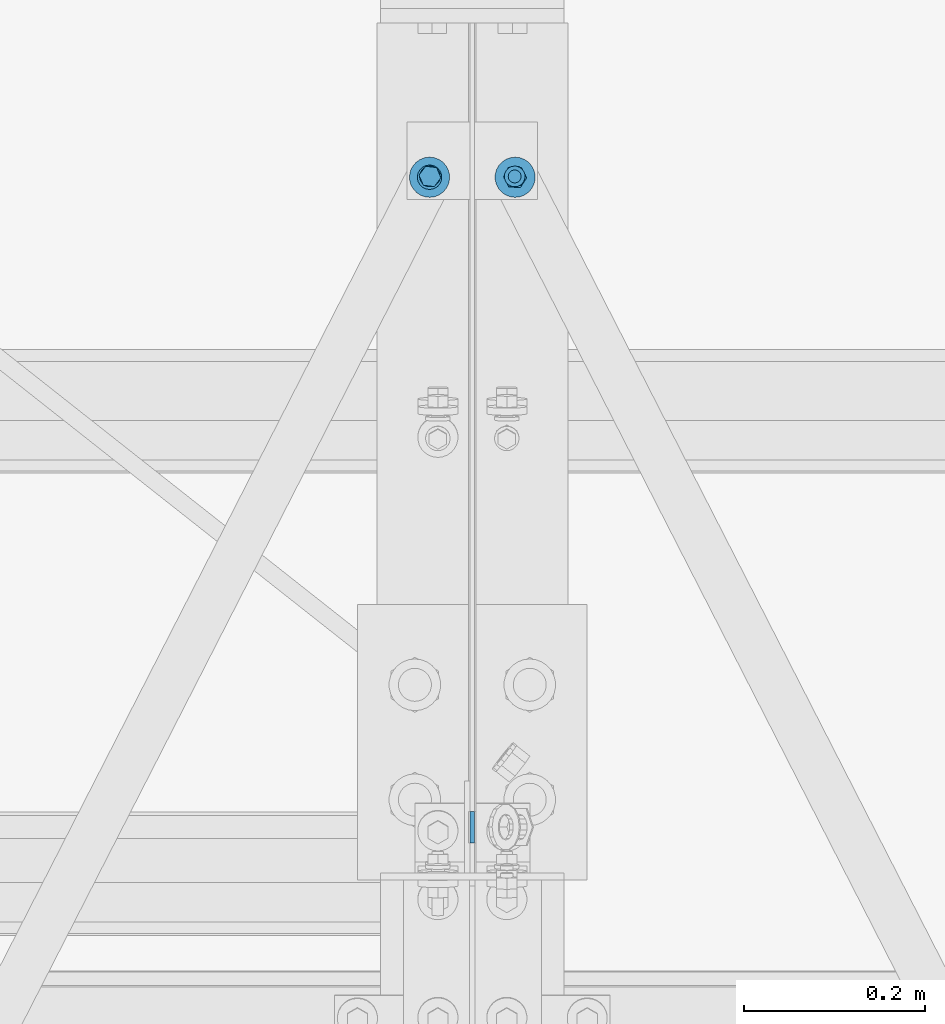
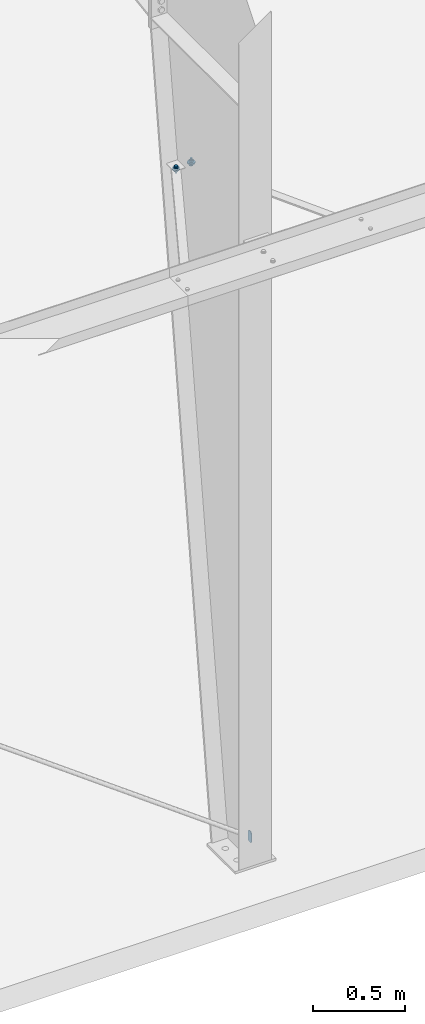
# One storey, part 166 of 185: 5 mechanical fasteners, 3 elements without a shape of their own.
"""IFC2X3 building model written with IfcOpenShell, lengths in millimetres."""

from ifc_helpers import new_model, si_unit, frame, frame_2d, origin_with_axes, origin_2d_with_axis, place, context, subcontext, project, spatial, polyline, circle_curve, parameter, trimmed, segment, composite_curve, circle, outline, extrude, source, transform, mapped, material, type_object, element, aggregate, save


model = new_model("IFC2X3")

# Units and contexts
model_context = context("Model", 3, precision=1e-05, world=origin_with_axes())
body_context = subcontext(model_context, "Body", "Model", "MODEL_VIEW")
ifc_project = project(units=[si_unit("LENGTHUNIT", "METRE", prefix="MILLI"), si_unit("AREAUNIT", "SQUARE_METRE"), si_unit("VOLUMEUNIT", "CUBIC_METRE"), si_unit("MASSUNIT", "GRAM", prefix="KILO"), si_unit("TIMEUNIT", "SECOND"), si_unit("PLANEANGLEUNIT", "RADIAN"), si_unit("SOLIDANGLEUNIT", "STERADIAN"), si_unit("THERMODYNAMICTEMPERATUREUNIT", "DEGREE_CELSIUS"), si_unit("LUMINOUSINTENSITYUNIT", "LUMEN")], contexts=[model_context])

# Site, building, storey
site_placement = place(None, origin_with_axes())
site = spatial("IfcSite", under=ifc_project, at=site_placement, Name="Undefined", CompositionType="ELEMENT")
building_placement = place(site_placement, origin_with_axes())
building = spatial("IfcBuilding", under=site, at=building_placement, Name="Undefined", CompositionType="ELEMENT")
storey_placement = place(building_placement, origin_with_axes())
storey = spatial("IfcBuildingStorey", under=building, at=storey_placement, Name="Undefined", CompositionType="ELEMENT", Elevation=0.0)

# Assembly, mechanical fastener
assembly_1_placement = place(storey_placement, origin_with_axes())
assembly_1 = element("IfcElementAssembly", 1, at=assembly_1_placement, inside=storey, Name="Steel Assembly", AssemblyPlace="NOTDEFINED", PredefinedType="RIGID_FRAME")
ifc_material_1 = material(Name="Undefined")
discrete_accessory_type = type_object("IfcDiscreteAccessoryType", Name="Bolt assembly")
shared_shape_1 = source(origin_with_axes(), body_context, "Body", "SweptSolid", [
    extrude(circle(Radius=7.14374971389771, at=origin_2d_with_axis()), frame((0.0, -1.59000001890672, 0.0), z_axis=(0.0, 1.0, 0.0), x_axis=(1.0, 0.0, 0.0)), (0.0, 0.0, 1.0), 1.7),
    extrude(outline(polyline([(10.9985221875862, 0.0), (5.4992610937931, 9.52499961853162), (-5.4992610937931, 9.52499961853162), (-10.9985221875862, 0.0), (-5.4992610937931, -9.52499961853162), (5.4992610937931, -9.52499961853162), (10.9985221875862, 0.0)])), frame((0.0, -15.0837496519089, 0.0), z_axis=(0.0, 1.0, 0.0), x_axis=(1.0, 0.0, 0.0)), (0.0, 0.0, 1.0), 9.5),
    extrude(circle(Radius=6.34999990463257, at=origin_2d_with_axis()), frame((0.0, -5.5587500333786, 0.0), z_axis=(0.0, 1.0, 0.0), x_axis=(1.0, 0.0, 0.0)), (0.0, 0.0, 1.0), 38.1),
    extrude(circle(Radius=13.4937496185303, at=origin_2d_with_axis()), frame((0.0, -5.5587500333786, 0.0), z_axis=(0.0, 1.0, 0.0), x_axis=(1.0, 0.0, 0.0)), (0.0, 0.0, 1.0), 4.0),
    extrude(circle(Radius=22.2250003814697, at=origin_2d_with_axis()), frame((0.0, 0.0, 0.0), z_axis=(0.0, 1.0, 0.0), x_axis=(1.0, 0.0, 0.0)), (0.0, 0.0, 1.0), 7.9),
    extrude(outline(polyline([(12.8316099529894, 0.0), (6.4158049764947, 11.1125001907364), (-6.4158049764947, 11.1125001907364), (-12.8316099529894, 0.0), (-6.4158049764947, -11.1125001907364), (6.4158049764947, -11.1125001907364), (12.8316099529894, 0.0)])), frame((0.0, 7.93750000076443, 0.0), z_axis=(0.0, 1.0, 0.0), x_axis=(1.0, 0.0, 0.0)), (0.0, 0.0, 1.0), 12.3),
])
mechanical_fastener_1_placement = place(assembly_1_placement, frame((37766.2866216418, 1081.76889073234, 4165.1649751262), z_axis=(-0.890301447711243, -0.455371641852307, 0.0), x_axis=(0.455371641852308, -0.890301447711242, 0.0)))
mechanical_fastener_1 = element("IfcMechanicalFastener", 2, at=mechanical_fastener_1_placement, type_object=discrete_accessory_type, material=ifc_material_1, Name="Bolt assembly", NominalDiameter=12.6999998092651, NominalLength=38.0999984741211, context=body_context, shape_type="MappedRepresentation", body=[
    mapped(shared_shape_1, transform((0.0, 0.0, 0.0))),
])
aggregate(assembly_1, [mechanical_fastener_1])

assembly_2_placement = place(storey_placement, origin_with_axes())
assembly_2 = element("IfcElementAssembly", 3, at=assembly_2_placement, inside=storey, Name="Steel Assembly", AssemblyPlace="NOTDEFINED", PredefinedType="RIGID_FRAME")
shared_shape_2 = source(origin_with_axes(), body_context, "Body", "SweptSolid", [
    extrude(circle(Radius=7.14374971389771, at=origin_2d_with_axis()), frame((0.0, 0.0, 0.0), z_axis=(0.0, 1.0, 0.0), x_axis=(1.0, 0.0, 0.0)), (0.0, 0.0, 1.0), 1.7),
    extrude(outline(polyline([(10.9985221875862, 0.0), (5.4992610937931, 9.52499961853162), (-5.4992610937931, 9.52499961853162), (-10.9985221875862, 0.0), (-5.4992610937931, -9.52499961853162), (5.4992610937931, -9.52499961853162), (10.9985221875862, 0.0)])), frame((0.0, -13.4937496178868, 0.0), z_axis=(0.0, 1.0, 0.0), x_axis=(1.0, 0.0, 0.0)), (0.0, 0.0, 1.0), 9.5),
    extrude(circle(Radius=6.34999990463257, at=origin_2d_with_axis()), frame((0.0, -3.96874999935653, 0.0), z_axis=(0.0, 1.0, 0.0), x_axis=(1.0, 0.0, 0.0)), (0.0, 0.0, 1.0), 38.1),
    extrude(circle(Radius=13.4937496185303, at=origin_2d_with_axis()), frame((0.0, -3.96874999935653, 0.0), z_axis=(0.0, 1.0, 0.0), x_axis=(1.0, 0.0, 0.0)), (0.0, 0.0, 1.0), 4.0),
    extrude(circle(Radius=22.2250003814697, at=origin_2d_with_axis()), frame((0.0, 1.5900000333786, 0.0), z_axis=(0.0, 1.0, 0.0), x_axis=(1.0, 0.0, 0.0)), (0.0, 0.0, 1.0), 7.9),
    extrude(outline(polyline([(12.8316099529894, 0.0), (6.4158049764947, 11.1125001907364), (-6.4158049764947, 11.1125001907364), (-12.8316099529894, 0.0), (-6.4158049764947, -11.1125001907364), (6.4158049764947, -11.1125001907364), (12.8316099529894, 0.0)])), frame((0.0, 9.5275000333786, 0.0), z_axis=(0.0, 1.0, 0.0), x_axis=(1.0, 0.0, 0.0)), (0.0, 0.0, 1.0), 12.3),
])
mechanical_fastener_2_placement = place(assembly_2_placement, frame((37671.7133783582, 1081.76889073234, 4165.1649751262), z_axis=(0.890301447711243, -0.455371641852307, 0.0), x_axis=(-0.455371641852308, -0.890301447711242, 0.0)))
mechanical_fastener_2 = element("IfcMechanicalFastener", 4, at=mechanical_fastener_2_placement, type_object=discrete_accessory_type, material=ifc_material_1, Name="Bolt assembly", NominalDiameter=12.6999998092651, NominalLength=38.0999984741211, context=body_context, shape_type="MappedRepresentation", body=[
    mapped(shared_shape_2, transform((0.0, 0.0, 0.0))),
])
aggregate(assembly_2, [mechanical_fastener_2])

# Assembly, mechanical fasteners
assembly_3_placement = place(storey_placement, origin_with_axes())
assembly_3 = element("IfcElementAssembly", 5, at=assembly_3_placement, inside=storey, Name="Steel Assembly", AssemblyPlace="NOTDEFINED", PredefinedType="RIGID_FRAME")
ifc_material_2 = material(Name="7990")
shared_shape_3 = source(origin_with_axes(), body_context, "Body", "SweptSolid", [
    extrude(circle(Radius=7.14374971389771, at=origin_2d_with_axis()), frame((0.0, -3.41600000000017, 0.0), z_axis=(0.0, 1.0, 0.0), x_axis=(1.0, 0.0, 0.0)), (0.0, 0.0, 1.0), 3.5),
    extrude(circle(Radius=11.4299998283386, at=origin_2d_with_axis()), frame((0.0, 0.0, 0.0), z_axis=(0.0, 1.0, 0.0), x_axis=(1.0, 0.0, 0.0)), (0.0, 0.0, 1.0), 4.2),
    extrude(outline(polyline([(12.171698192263, 0.0), (6.08584909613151, 10.5409998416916), (-6.08584909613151, 10.5409998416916), (-12.171698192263, 0.0), (-6.08584909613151, -10.5409998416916), (6.08584909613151, -10.5409998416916), (12.171698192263, 0.0)])), frame((0.0, 4.1909999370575, 0.0), z_axis=(0.0, 1.0, 0.0), x_axis=(1.0, 0.0, 0.0)), (0.0, 0.0, 1.0), 8.4),
])
mechanical_fastener_3_placement = place(assembly_3_placement, frame((37672.16875, 1082.65919218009, 4165.1649751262), z_axis=(0.921635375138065, 0.388057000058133, 0.0), x_axis=(-0.388057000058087, 0.921635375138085, 0.0)))
mechanical_fastener_3 = element("IfcMechanicalFastener", 6, at=mechanical_fastener_3_placement, type_object=discrete_accessory_type, material=ifc_material_2, Name="Bolt assembly", NominalDiameter=12.6999998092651, NominalLength=38.0999984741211, context=body_context, shape_type="MappedRepresentation", body=[
    mapped(shared_shape_3, transform((0.0, 0.0, 0.0))),
])
shared_shape_4 = source(origin_with_axes(), body_context, "Body", "SweptSolid", [
    extrude(circle(Radius=7.14374971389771, at=origin_2d_with_axis()), frame((0.0, 0.0, 0.0), z_axis=(0.0, 1.0, 0.0), x_axis=(1.0, 0.0, 0.0)), (0.0, 0.0, 1.0), 3.5),
    extrude(circle(Radius=11.4299998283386, at=origin_2d_with_axis()), frame((0.0, 3.41600000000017, 0.0), z_axis=(0.0, 1.0, 0.0), x_axis=(1.0, 0.0, 0.0)), (0.0, 0.0, 1.0), 4.2),
    extrude(outline(polyline([(12.171698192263, 0.0), (6.08584909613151, 10.5409998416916), (-6.08584909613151, 10.5409998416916), (-12.171698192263, 0.0), (-6.08584909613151, -10.5409998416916), (6.08584909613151, -10.5409998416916), (12.171698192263, 0.0)])), frame((0.0, 7.60699993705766, 0.0), z_axis=(0.0, 1.0, 0.0), x_axis=(1.0, 0.0, 0.0)), (0.0, 0.0, 1.0), 8.4),
])
mechanical_fastener_4_placement = place(assembly_3_placement, frame((37765.83125, 1082.65919218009, 4165.1649751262), z_axis=(-0.921635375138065, 0.388057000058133, 0.0), x_axis=(0.388057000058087, 0.921635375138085, 0.0)))
mechanical_fastener_4 = element("IfcMechanicalFastener", 7, at=mechanical_fastener_4_placement, type_object=discrete_accessory_type, material=ifc_material_2, Name="Bolt assembly", NominalDiameter=12.6999998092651, NominalLength=38.0999984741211, context=body_context, shape_type="MappedRepresentation", body=[
    mapped(shared_shape_4, transform((0.0, 0.0, 0.0))),
])
shared_shape_5 = source(origin_with_axes(), body_context, "Body", "SweptSolid", [
    extrude(outline(composite_curve([segment(polyline([(-23.8125, 17.4624996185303), (23.8125, 17.4624996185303)]), True, "CONTINUOUS"), segment(trimmed(circle_curve(frame_2d((23.8125, 4.76249980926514), x_axis=(0.0, 1.0)), 12.7), [parameter(0.0)], [parameter(4.71238898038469)], False, "PARAMETER"), True, "CONTINUOUS"), segment(polyline([(36.5124998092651, 4.76249980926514), (36.5124998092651, -4.76249980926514)]), True, "CONTINUOUS"), segment(trimmed(circle_curve(frame_2d((23.8125, -4.76249980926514), x_axis=(1.0, 0.0)), 12.7), [parameter(0.0)], [parameter(4.71238898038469)], False, "PARAMETER"), True, "CONTINUOUS"), segment(polyline([(23.8125, -17.4624996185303), (-23.8125, -17.4624996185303)]), True, "CONTINUOUS"), segment(trimmed(circle_curve(frame_2d((-23.8125, -4.76249980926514), x_axis=(0.0, -1.0)), 12.7), [parameter(0.0)], [parameter(4.71238898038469)], False, "PARAMETER"), True, "CONTINUOUS"), segment(polyline([(-36.5124998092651, -4.76249980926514), (-36.5124998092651, 4.76249980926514)]), True, "CONTINUOUS"), segment(trimmed(circle_curve(frame_2d((-23.8125, 4.76249980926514), x_axis=(-1.0, 0.0)), 12.7), [parameter(0.0)], [parameter(4.71238898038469)], False, "PARAMETER"), True, "DISCONTINUOUS")], self_intersect=False)), frame((0.0, -2.38125000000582, 0.0), z_axis=(0.0, 1.0, 0.0), x_axis=(1.0, 0.0, 0.0)), (0.0, 0.0, 1.0), 4.9),
])
mechanical_fastener_5_placement = place(assembly_3_placement, frame((37719.0, 363.473999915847, 168.274958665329), z_axis=(0.0, 1.0, 0.0), x_axis=(0.0, 0.0, 1.0)))
mechanical_fastener_5 = element("IfcMechanicalFastener", 8, at=mechanical_fastener_5_placement, type_object=discrete_accessory_type, material=ifc_material_1, Name="Bolt assembly", NominalDiameter=25.3999996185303, NominalLength=31.75, context=body_context, shape_type="MappedRepresentation", body=[
    mapped(shared_shape_5, transform((0.0, 0.0, 0.0))),
])
aggregate(assembly_3, [mechanical_fastener_5, mechanical_fastener_3, mechanical_fastener_4])

save(model, "model.ifc")
